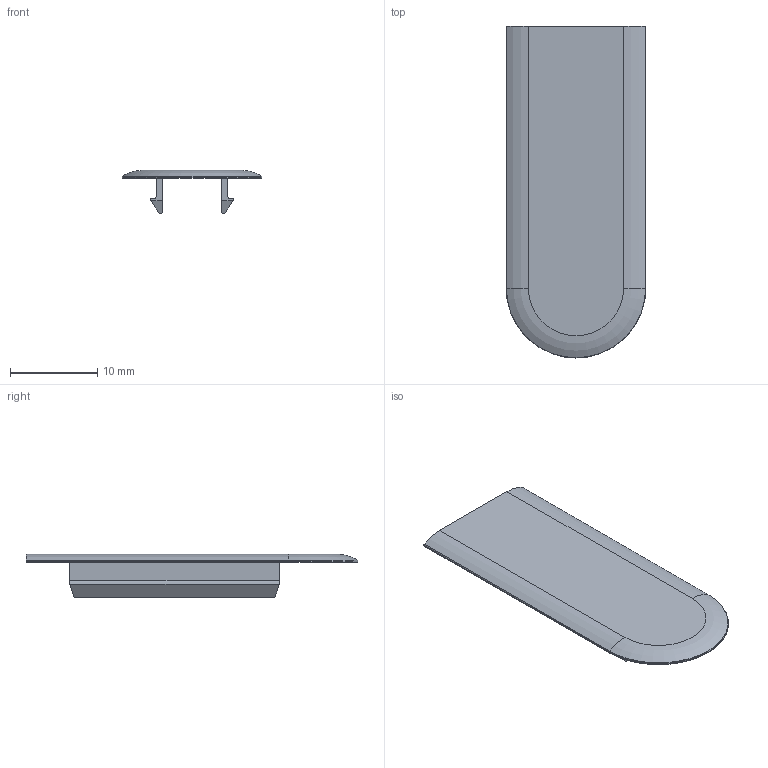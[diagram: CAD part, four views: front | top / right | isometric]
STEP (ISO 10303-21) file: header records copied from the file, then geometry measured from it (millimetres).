
FILE_DESCRIPTION((''),'2;1');
FILE_NAME('C:\Andys Backup Data\WEBSITE\DREAMWEAVER\MiniTec\Products\30 SERIES PROFILES\CAD\STEP\22.1182_1 END CAP G 30.stp','2016-09-16T15:00:31',('amoles'),(''),'Autodesk Inventor 2012','Autodesk Inventor 2012','');
FILE_SCHEMA(('AUTOMOTIVE_DESIGN { 1 0 10303 214 1 1 1 1 }'));
Length unit declared in the file: inch
Products named in the file (1): 22.1182_1 END CAP G 30
Bounding box: 16 x 38 x 5 mm (x, y, z)
Volume: 541 mm3; surface area: 1623.2 mm2
Topology: 1 solids, 1 shells, 44 faces, 112 edges, 72 vertices
Faces by surface type: plane 21, cylinder 19, torus 3, bspline 1
Entity records: 1388 total; most frequent: CARTESIAN_POINT 255, DIRECTION 246, ORIENTED_EDGE 224, EDGE_CURVE 112, AXIS2_PLACEMENT_3D 90, VERTEX_POINT 72, VECTOR 66, LINE 66
